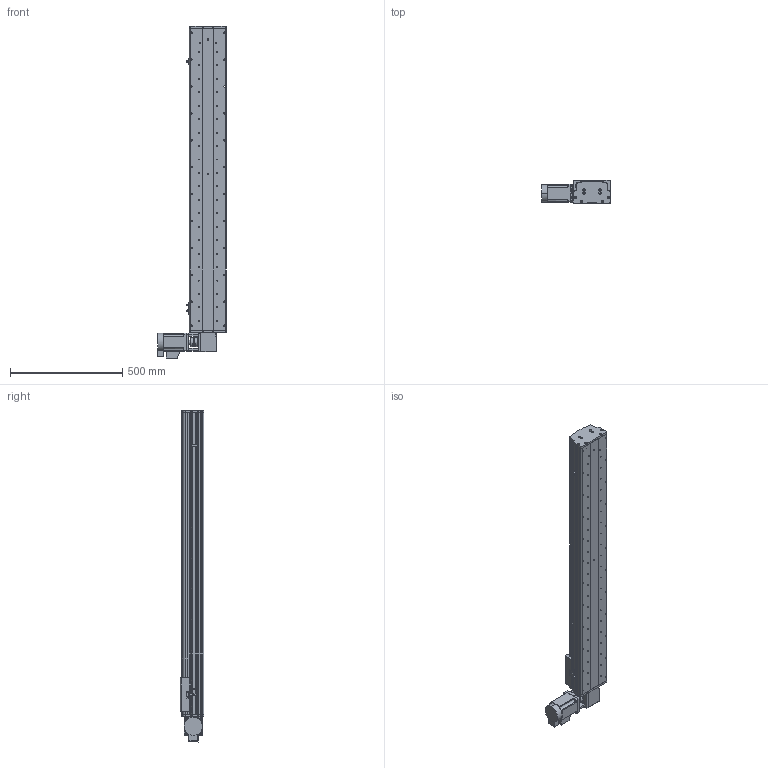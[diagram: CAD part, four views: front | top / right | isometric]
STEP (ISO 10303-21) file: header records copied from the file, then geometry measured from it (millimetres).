
FILE_DESCRIPTION (( 'STEP AP214' ), '1' );
FILE_NAME ('KSD165B-S1100-MRT-CM.STEP', '2017-10-17T01:34:52', ( '微软用户' ), ( '微软中国' ), 'SwSTEP 2.0', 'SolidWorks 2014', '' );
FILE_SCHEMA (( 'AUTOMOTIVE_DESIGN' ));
Length unit declared in the file: millimetre
Products named in the file (16): KSD165模组-后端板1-同步带; 130宽马达安装板1-带电机座750W（1）; KSD165模组-同步带滑动座-最新版; KSD165B-S1100-MRT-CM; 165宽马达安装板同步带左-改; KSD165模组-同步带防尘盖1-1100行程; KSD165模组同步带底板-1100行程; 拸秶雄ん750W侜督萇儂; 165宽安装板同步带带电机座750W; C39ㄜ1419WP; U倰嫖萇假蚾璃; U倰嫖萇EEㄜSX672; 覜茼え68遵圉猾敕; KSD165模组-同步带-防撞垫2; KSD165模组同步带-防撞垫1; KSD165耀郪-ヶ傷啣1-肮祭湍
Assembly tree (19 placements, depth 2):
  KSD165B-S1100-MRT-CM
    KSD165模组-同步带滑动座-最新版
    130宽马达安装板1-带电机座750W（1）
    KSD165模组-后端板1-同步带
    KSD165耀郪-ヶ傷啣1-肮祭湍
    KSD165模组同步带-防撞垫1
    KSD165模组-同步带-防撞垫2
    覜茼え68遵圉猾敕
    U倰嫖萇EEㄜSX672  x3
    U倰嫖萇假蚾璃  x3
    C39ㄜ1419WP
    165宽安装板同步带带电机座750W
    拸秶雄ん750W侜督萇儂
    KSD165模组同步带底板-1100行程
    KSD165模组-同步带防尘盖1-1100行程
    165宽马达安装板同步带左-改
Bounding box: 307.5 x 104 x 1481.06 mm (x, y, z)
Volume: 8335551.6 mm3; surface area: 1888797.1 mm2
Topology: 20 solids, 21 shells, 1532 faces, 4266 edges, 2765 vertices
Faces by surface type: cylinder 853, plane 585, cone 94
Entity records: 49083 total; most frequent: CARTESIAN_POINT 10291, DIRECTION 7616, ORIENTED_EDGE 7184, EDGE_CURVE 3592, AXIS2_PLACEMENT_3D 2906, VERTEX_POINT 2357, VECTOR 1804, LINE 1804
